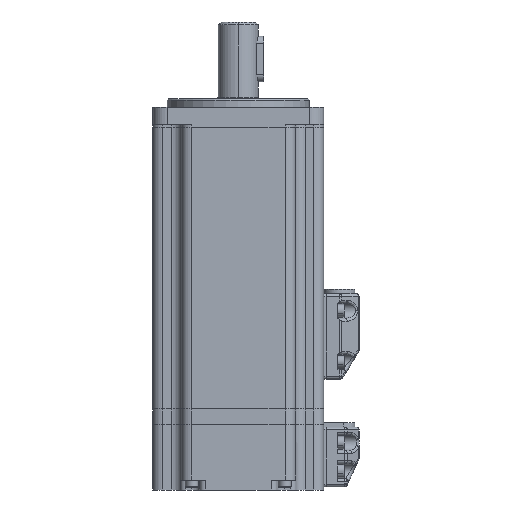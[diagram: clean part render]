
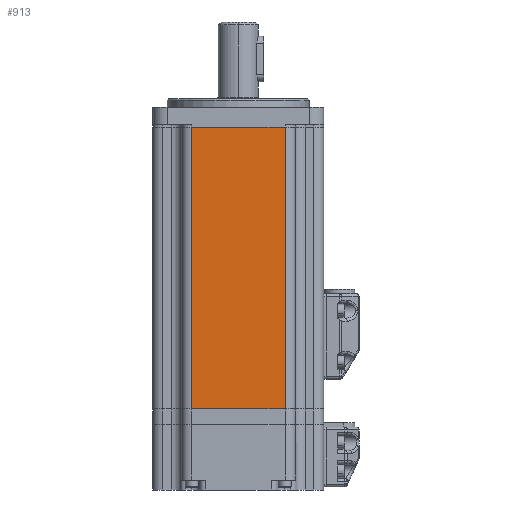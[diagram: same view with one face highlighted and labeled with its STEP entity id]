
A CAD part, front view. The second image highlights one B-rep face of the part: STEP entity #913.
In plain terms, the highlighted planar face has unit normal (0, -1, 0).
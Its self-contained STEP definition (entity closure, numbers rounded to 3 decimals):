
#640 = EDGE_CURVE ( 'NONE', #38629, #23237, #50206, .T. ) ;
#913 = ADVANCED_FACE ( 'NONE', ( #8255 ), #50810, .F. ) ;
#1092 = CARTESIAN_POINT ( 'NONE',  ( -20., -30., 0. ) ) ;
#1369 = DIRECTION ( 'NONE',  ( 0., 0., 1. ) ) ;
#2451 = CARTESIAN_POINT ( 'NONE',  ( 16.5, -30., -99. ) ) ;
#4045 = ORIENTED_EDGE ( 'NONE', *, *, #640, .T. ) ;
#5397 = VECTOR ( 'NONE', #38560, 1000. ) ;
#7260 = ORIENTED_EDGE ( 'NONE', *, *, #22951, .T. ) ;
#8255 = FACE_OUTER_BOUND ( 'NONE', #12078, .T. ) ;
#9347 = VECTOR ( 'NONE', #35387, 1000. ) ;
#9962 = VERTEX_POINT ( 'NONE', #51397 ) ;
#10763 = CARTESIAN_POINT ( 'NONE',  ( -20., -30., -99. ) ) ;
#11704 = DIRECTION ( 'NONE',  ( 0., 0., -1. ) ) ;
#12078 = EDGE_LOOP ( 'NONE', ( #7260, #4045, #13074, #42170 ) ) ;
#13074 = ORIENTED_EDGE ( 'NONE', *, *, #27134, .F. ) ;
#13944 = CARTESIAN_POINT ( 'NONE',  ( 16.5, -30., -99. ) ) ;
#16434 = LINE ( 'NONE', #13944, #5397 ) ;
#18713 = LINE ( 'NONE', #1092, #39258 ) ;
#21630 = LINE ( 'NONE', #10763, #9347 ) ;
#22951 = EDGE_CURVE ( 'NONE', #9962, #38629, #18713, .T. ) ;
#23237 = VERTEX_POINT ( 'NONE', #23413 ) ;
#23413 = CARTESIAN_POINT ( 'NONE',  ( -16.5, -30., -99. ) ) ;
#27134 = EDGE_CURVE ( 'NONE', #34107, #23237, #21630, .T. ) ;
#29926 = DIRECTION ( 'NONE',  ( -1., 0., 0. ) ) ;
#29970 = EDGE_CURVE ( 'NONE', #34107, #9962, #16434, .T. ) ;
#34107 = VERTEX_POINT ( 'NONE', #2451 ) ;
#34170 = DIRECTION ( 'NONE',  ( 0., 1., 0. ) ) ;
#35387 = DIRECTION ( 'NONE',  ( -1., 0., 0. ) ) ;
#36342 = CARTESIAN_POINT ( 'NONE',  ( -16.5, -30., -99. ) ) ;
#38560 = DIRECTION ( 'NONE',  ( 0., 0., 1. ) ) ;
#38629 = VERTEX_POINT ( 'NONE', #49959 ) ;
#39173 = VECTOR ( 'NONE', #11704, 1000. ) ;
#39258 = VECTOR ( 'NONE', #29926, 1000. ) ;
#42170 = ORIENTED_EDGE ( 'NONE', *, *, #29970, .T. ) ;
#46623 = CARTESIAN_POINT ( 'NONE',  ( -20., -30., -99. ) ) ;
#49959 = CARTESIAN_POINT ( 'NONE',  ( -16.5, -30., 0. ) ) ;
#50206 = LINE ( 'NONE', #36342, #39173 ) ;
#50810 = PLANE ( 'NONE',  #53555 ) ;
#51397 = CARTESIAN_POINT ( 'NONE',  ( 16.5, -30., 0. ) ) ;
#53555 = AXIS2_PLACEMENT_3D ( 'NONE', #46623, #34170, #1369 ) ;
